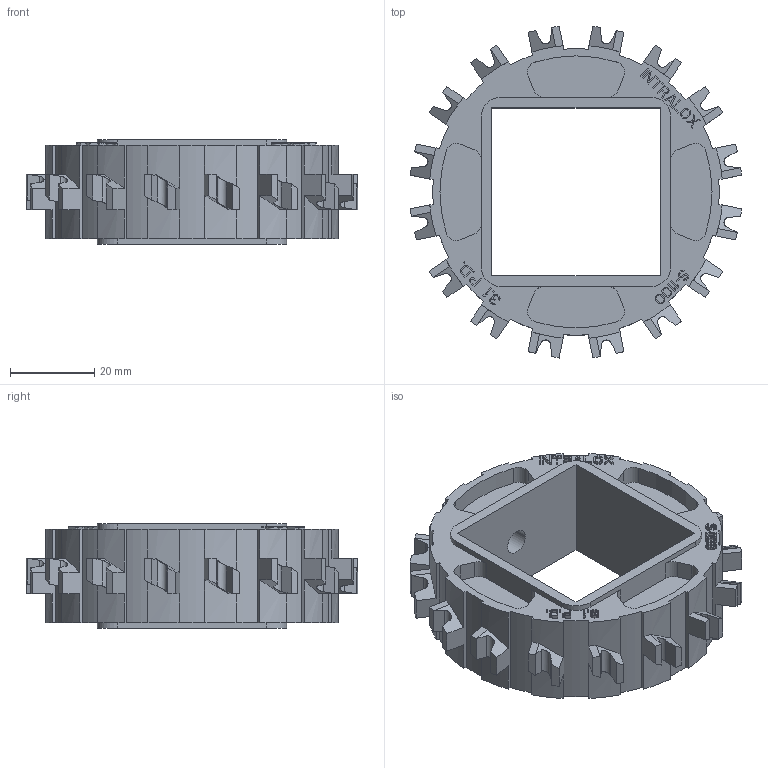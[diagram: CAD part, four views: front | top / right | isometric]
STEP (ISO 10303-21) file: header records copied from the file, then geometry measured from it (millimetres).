
FILE_DESCRIPTION((''),'2;1');
FILE_NAME('S1100_SPROCKET_31X40_SQ_M6','2012-07-06T',('rklein'),('INTRALOX'),'PRO/ENGINEER BY PARAMETRIC TECHNOLOGY CORPORATION, 2009460','PRO/ENGINEER BY PARAMETRIC TECHNOLOGY CORPORATION, 2009460','');
FILE_SCHEMA(('CONFIG_CONTROL_DESIGN'));
Length unit declared in the file: inch
Products named in the file (1): S1100_SPROCKET_31X40_SQ_M6
Bounding box: 79 x 79 x 24.89 mm (x, y, z)
Volume: 44038 mm3; surface area: 18555.1 mm2
Topology: 1 solids, 1 shells, 750 faces, 2125 edges, 1406 vertices
Faces by surface type: plane 635, cylinder 115
Entity records: 24678 total; most frequent: CARTESIAN_POINT 5104, ORIENTED_EDGE 4250, DIRECTION 3749, EDGE_CURVE 2125, VECTOR 1861, LINE 1861, VERTEX_POINT 1406, AXIS2_PLACEMENT_3D 944
